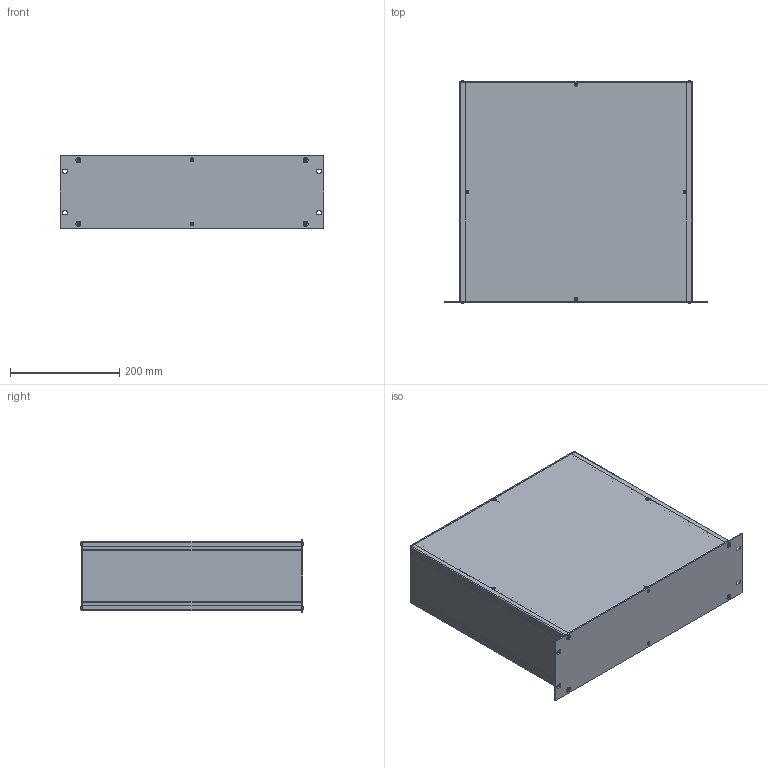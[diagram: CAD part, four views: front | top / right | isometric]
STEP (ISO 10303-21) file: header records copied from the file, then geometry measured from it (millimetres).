
FILE_DESCRIPTION(/* description */ (''),/* implementation_level */ '2;1');
FILE_NAME(/* name */ '//diskstation/Kunden/Gehäuse/Gehäuse/3HE/step/Zoll 3HE Rack Gehäuse Tiefe-400.step',/* time_stamp */ '2022-02-17T15:43:34+01:00',/* author */ (''),/* organization */ (''),/* preprocessor_version */ 'ST-DEVELOPER v18.1',/* originating_system */ 'Autodesk Translation Framework v10.10.0.1391',/* authorisation */ '');
FILE_SCHEMA (('AUTOMOTIVE_DESIGN { 1 0 10303 214 3 1 1 }'));
Length unit declared in the file: millimetre
Products named in the file (28): 3HE Gehäuse mit parametern; Gehäuse; Gehäuseprofil 1 unten links; Gehäuseprofil 2 oben rechts; Gehäuseprofil 1 unten rechts; Gehäuseprofil 2 oben links; Rückplatte; Deckel; Seitenteil links; Seitenteil rechts; Bodenplatte; Montageklotz Front/Deckel; Montageklotz Front/Boden; Montageklotz Rück/Deckel; Montageklotz Rück/Boden; Gewindestreifen; Frontplatte; Schrauben M5; Schraube Front; Schraube Front (1); Schraube Front (2); Schraube Front (3); Schraube Rück (1); Schraube Rück; Schraube Rück (2); Schraube Rück (3); Schrauben M3; HI_Senkschraube DIN 965 A v2 M3x5 24677.030.005(High)
Assembly tree (37 placements, depth 3):
  3HE Gehäuse mit parametern
    Gehäuse
      Gehäuseprofil 1 unten links
      Gehäuseprofil 2 oben rechts
      Gehäuseprofil 1 unten rechts
      Gehäuseprofil 2 oben links
      Rückplatte
      Deckel
      Seitenteil links
      Seitenteil rechts
      Bodenplatte
      Montageklotz Front/Deckel
      Montageklotz Front/Boden
      Montageklotz Rück/Deckel
      Montageklotz Rück/Boden
      Gewindestreifen  x2
    Frontplatte
    Schrauben M5
      Schraube Front
      Schraube Front (1)
      Schraube Front (2)
      Schraube Front (3)
      Schraube Rück (1)
      Schraube Rück
      Schraube Rück (2)
      Schraube Rück (3)
    Schrauben M3
      HI_Senkschraube DIN 965 A v2 M3x5 24677.030.005(High)  x10
Bounding box: 483 x 408.2 x 132.5 mm (x, y, z)
Volume: 1403150.9 mm3; surface area: 1241266.4 mm2
Topology: 34 solids, 34 shells, 914 faces, 2256 edges, 1410 vertices
Faces by surface type: cylinder 392, plane 342, cone 164, torus 8, bspline 8
Full cylindrical faces by diameter (mm): 2.529 x150, 3 x10, 3.2 x10, 4.234 x40, 5 x8, 5.2 x4, 5.3 x8, 5.6 x10, 9.5 x8
Entity records: 18015 total; most frequent: CARTESIAN_POINT 3258, DIRECTION 3030, ORIENTED_EDGE 2670, EDGE_CURVE 1335, AXIS2_PLACEMENT_3D 1150, VERTEX_POINT 838, EDGE_LOOP 821, LINE 730
